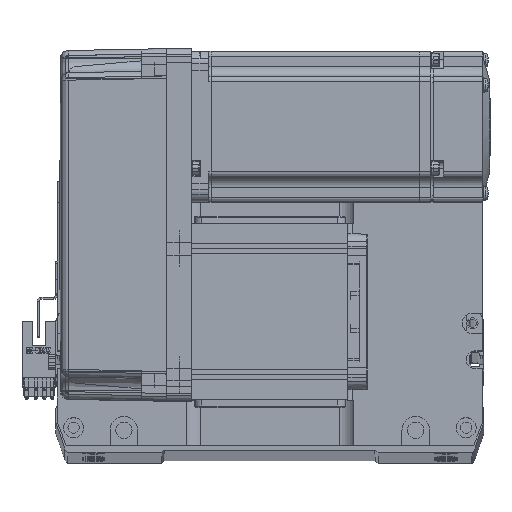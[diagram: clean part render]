
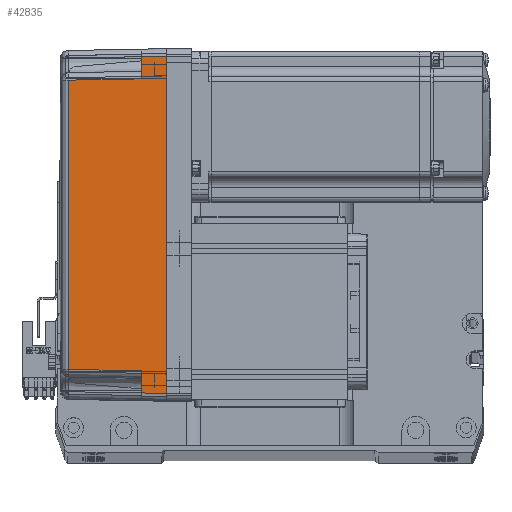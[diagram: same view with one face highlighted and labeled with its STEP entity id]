
A CAD part, top view. The second image highlights one B-rep face of the part: STEP entity #42835.
In plain terms, the highlighted planar face has unit normal (-0.018, 0, 1) as drawn and (0, 1, 0.017) by its records, which use the part's own axes.
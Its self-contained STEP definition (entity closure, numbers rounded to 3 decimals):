
#707 = EDGE_CURVE ( 'NONE', #49646, #36181, #39783, .T. ) ;
#809 = B_SPLINE_CURVE_WITH_KNOTS ( 'NONE', 3,
 ( #39208, #23508, #28800, #12390 ),
 .UNSPECIFIED., .F., .F.,
 ( 4, 4 ),
 ( 0., 1. ),
 .UNSPECIFIED. ) ;
#1106 = ORIENTED_EDGE ( 'NONE', *, *, #14546, .T. ) ;
#1877 = ORIENTED_EDGE ( 'NONE', *, *, #56951, .T. ) ;
#2792 = CARTESIAN_POINT ( 'NONE',  ( 0., 36., 0. ) ) ;
#3588 = VERTEX_POINT ( 'NONE', #55412 ) ;
#3614 = PLANE ( 'NONE',  #52063 ) ;
#5324 = VECTOR ( 'NONE', #19307, 1000. ) ;
#6055 = VECTOR ( 'NONE', #44224, 1000. ) ;
#6289 = CARTESIAN_POINT ( 'NONE',  ( 66.826, 35.825, 10. ) ) ;
#6337 = VERTEX_POINT ( 'NONE', #53146 ) ;
#7908 = ORIENTED_EDGE ( 'NONE', *, *, #10617, .T. ) ;
#8516 = LINE ( 'NONE', #29779, #22517 ) ;
#9014 = DIRECTION ( 'NONE',  ( -0.017, -0.017, 1. ) ) ;
#9399 = CARTESIAN_POINT ( 'NONE',  ( 70., 36., 0. ) ) ;
#9842 = CARTESIAN_POINT ( 'NONE',  ( -58., 35.825, 10. ) ) ;
#10617 = EDGE_CURVE ( 'NONE', #3588, #21116, #24273, .T. ) ;
#12390 = CARTESIAN_POINT ( 'NONE',  ( 57.495, 35.32, 38.985 ) ) ;
#14546 = EDGE_CURVE ( 'NONE', #18338, #49646, #809, .T. ) ;
#18338 = VERTEX_POINT ( 'NONE', #62487 ) ;
#19307 = DIRECTION ( 'NONE',  ( 0.017, -0.017, 1. ) ) ;
#21000 = CARTESIAN_POINT ( 'NONE',  ( 57.495, 35.32, 38.985 ) ) ;
#21116 = VERTEX_POINT ( 'NONE', #55322 ) ;
#21737 = ORIENTED_EDGE ( 'NONE', *, *, #707, .T. ) ;
#22517 = VECTOR ( 'NONE', #9014, 1000. ) ;
#23508 = CARTESIAN_POINT ( 'NONE',  ( -19.165, 35.316, 39.181 ) ) ;
#24273 = LINE ( 'NONE', #48823, #6055 ) ;
#26515 = CARTESIAN_POINT ( 'NONE',  ( 70., 35.825, 10. ) ) ;
#28800 = CARTESIAN_POINT ( 'NONE',  ( 19.165, 35.316, 39.181 ) ) ;
#29754 = VERTEX_POINT ( 'NONE', #36761 ) ;
#29779 = CARTESIAN_POINT ( 'NONE',  ( 67.001, 36.001, -0.052 ) ) ;
#31399 = DIRECTION ( 'NONE',  ( 1., 0., 0. ) ) ;
#31474 = EDGE_CURVE ( 'NONE', #21116, #6337, #42374, .T. ) ;
#31610 = VECTOR ( 'NONE', #31399, 1000. ) ;
#33491 = CARTESIAN_POINT ( 'NONE',  ( 58., 35.825, 10. ) ) ;
#35660 = EDGE_CURVE ( 'NONE', #6337, #18338, #51647, .T. ) ;
#35751 = DIRECTION ( 'NONE',  ( 0., 1., 0.017 ) ) ;
#36181 = VERTEX_POINT ( 'NONE', #33491 ) ;
#36521 = EDGE_LOOP ( 'NONE', ( #7908, #43394, #47225, #1106, #21737, #1877, #63669, #64644 ) ) ;
#36761 = CARTESIAN_POINT ( 'NONE',  ( 67., 36., 0. ) ) ;
#37795 = VECTOR ( 'NONE', #45343, 1000. ) ;
#39208 = CARTESIAN_POINT ( 'NONE',  ( -57.495, 35.32, 38.985 ) ) ;
#39783 = LINE ( 'NONE', #21000, #57193 ) ;
#40988 = VERTEX_POINT ( 'NONE', #6289 ) ;
#41064 = DIRECTION ( 'NONE',  ( 0., -0.017, 1. ) ) ;
#41866 = CARTESIAN_POINT ( 'NONE',  ( 57.495, 35.32, 38.985 ) ) ;
#42374 = LINE ( 'NONE', #68257, #31610 ) ;
#42395 = EDGE_CURVE ( 'NONE', #3588, #29754, #60238, .T. ) ;
#42835 = ADVANCED_FACE ( 'NONE', ( #62627 ), #3614, .T. ) ;
#43394 = ORIENTED_EDGE ( 'NONE', *, *, #31474, .T. ) ;
#44224 = DIRECTION ( 'NONE',  ( 0.017, -0.017, 1. ) ) ;
#45343 = DIRECTION ( 'NONE',  ( 1., 0., 0. ) ) ;
#46915 = DIRECTION ( 'NONE',  ( 1., 0., 0. ) ) ;
#47225 = ORIENTED_EDGE ( 'NONE', *, *, #35660, .T. ) ;
#48823 = CARTESIAN_POINT ( 'NONE',  ( -67., 36., 0. ) ) ;
#49646 = VERTEX_POINT ( 'NONE', #41866 ) ;
#51647 = LINE ( 'NONE', #9842, #5324 ) ;
#52063 = AXIS2_PLACEMENT_3D ( 'NONE', #9399, #35751, #41064 ) ;
#53146 = CARTESIAN_POINT ( 'NONE',  ( -58., 35.825, 10. ) ) ;
#55322 = CARTESIAN_POINT ( 'NONE',  ( -66.826, 35.825, 10. ) ) ;
#55412 = CARTESIAN_POINT ( 'NONE',  ( -67., 36., 0. ) ) ;
#56951 = EDGE_CURVE ( 'NONE', #36181, #40988, #61679, .T. ) ;
#57193 = VECTOR ( 'NONE', #58009, 1000. ) ;
#58009 = DIRECTION ( 'NONE',  ( 0.017, 0.017, -1. ) ) ;
#59987 = VECTOR ( 'NONE', #46915, 1000. ) ;
#60238 = LINE ( 'NONE', #2792, #37795 ) ;
#61679 = LINE ( 'NONE', #26515, #59987 ) ;
#62148 = EDGE_CURVE ( 'NONE', #29754, #40988, #8516, .T. ) ;
#62487 = CARTESIAN_POINT ( 'NONE',  ( -57.495, 35.32, 38.985 ) ) ;
#62627 = FACE_OUTER_BOUND ( 'NONE', #36521, .T. ) ;
#63669 = ORIENTED_EDGE ( 'NONE', *, *, #62148, .F. ) ;
#64644 = ORIENTED_EDGE ( 'NONE', *, *, #42395, .F. ) ;
#68257 = CARTESIAN_POINT ( 'NONE',  ( 70., 35.825, 10. ) ) ;
